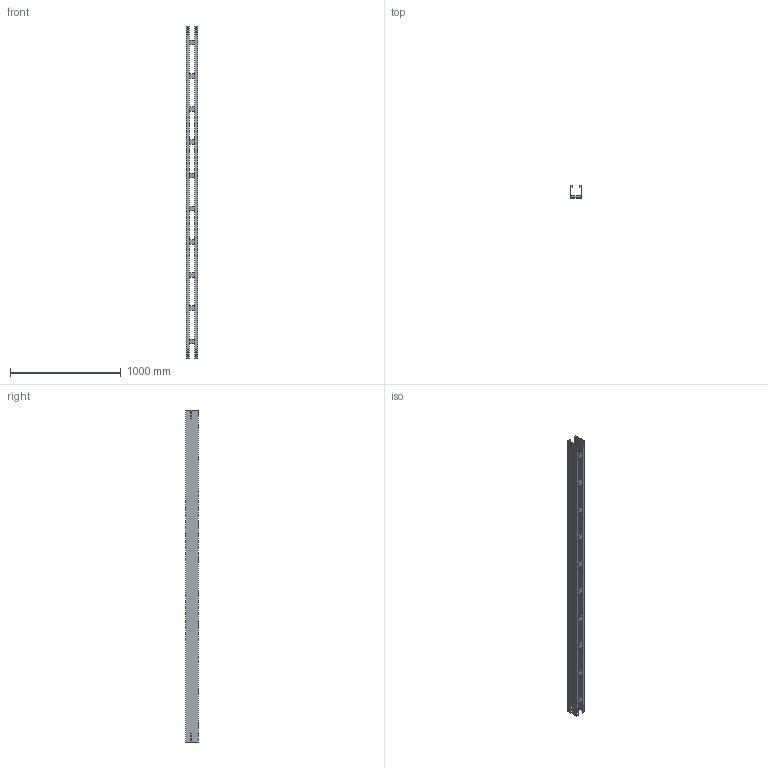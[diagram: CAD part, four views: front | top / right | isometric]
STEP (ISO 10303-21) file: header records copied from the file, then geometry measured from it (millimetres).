
FILE_DESCRIPTION (( 'STEP AP214' ), '1' );
FILE_NAME ('01B3J100.step', '2025-02-21T16:00:05', ( '' ), ( '' ), 'SwSTEP 2.0', 'SolidWorks 2023', '' );
FILE_SCHEMA (( 'AUTOMOTIVE_DESIGN' ));
Length unit declared in the file: millimetre
Products named in the file (3): 01B3J100; TRAVERSINO_100; LONGH.H112.5
Assembly tree (12 placements, depth 2):
  01B3J100
    LONGH.H112.5  x2
    TRAVERSINO_100  x10
Bounding box: 100 x 112.5 x 3000 mm (x, y, z)
Volume: 3574672 mm3; surface area: 1997156 mm2
Topology: 12 solids, 12 shells, 144 faces, 360 edges, 240 vertices
Faces by surface type: plane 144
Entity records: 1696 total; most frequent: CARTESIAN_POINT 283, ORIENTED_EDGE 264, DIRECTION 258, EDGE_CURVE 132, VECTOR 132, LINE 132, VERTEX_POINT 88, EDGE_LOOP 64
